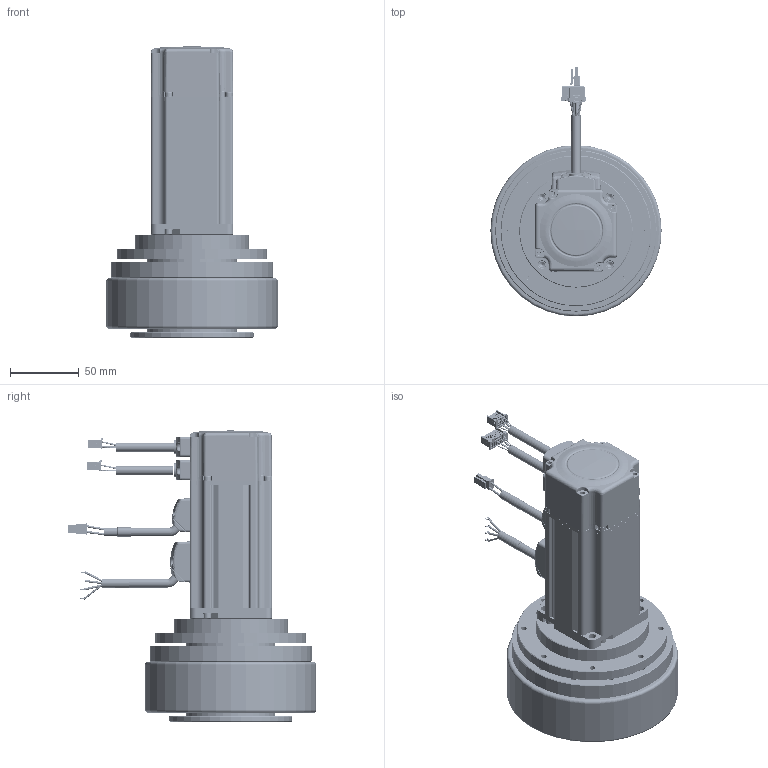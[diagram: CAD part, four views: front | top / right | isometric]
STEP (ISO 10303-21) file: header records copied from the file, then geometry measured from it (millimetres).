
FILE_DESCRIPTION((''),'2;1');
FILE_NAME('MSD125-020-30GEL-B_ASM','2026-05-22T14:32:23',('MS28159'),(''),'CREO PARAMETRIC BY PTC INC, 2018100','CREO PARAMETRIC BY PTC INC, 2018100','');
FILE_SCHEMA(('CONFIG_CONTROL_DESIGN'));
Products named in the file (9): SINGLE_COIL_LOCK_WASHERS_LIGHT_; HEXAGON_SOCKET_HEAD_CAP_SCREWS_; AEQ-95-H37-W125_1; AEQ-095C-L2-14-1_X2_6A21578BFF0; AEQ-095C-L2-14-1-H37-W125_ASM_1_ASM; ASM0008_ASM_1_ASM; SM0601-SL-KCY-NNV_ASM_1_ASM; SM0601-EL-KCY-BNV_ASM; MSD125-020-30GEL-B_ASM
Assembly tree (30 placements, depth 5):
  MSD125-020-30GEL-B_ASM
    SM0601-SL-KCY-NNV_ASM_1_ASM
      ASM0008_ASM_1_ASM
        AEQ-095C-L2-14-1-H37-W125_ASM_1_ASM
          SINGLE_COIL_LOCK_WASHERS_LIGHT_  x12
          HEXAGON_SOCKET_HEAD_CAP_SCREWS_  x12
          AEQ-95-H37-W125_1
          AEQ-095C-L2-14-1_X2_6A21578BFF0
    SM0601-EL-KCY-BNV_ASM
Bounding box: 125 x 181.54 x 212.5 mm (x, y, z)
Volume: 725100 mm3; surface area: 248373.7 mm2
Topology: 26 solids, 84 shells, 4676 faces, 11997 edges, 7509 vertices
Faces by surface type: plane 1998, cylinder 1157, cone 562, torus 327, bspline 301, extrusion 191, sphere 140
Entity records: 224515 total; most frequent: CARTESIAN_POINT 122051, ORIENTED_EDGE 21838, DIRECTION 20173, EDGE_CURVE 10931, AXIS2_PLACEMENT_3D 7150, VERTEX_POINT 6970, VECTOR 5873, LINE 5682
